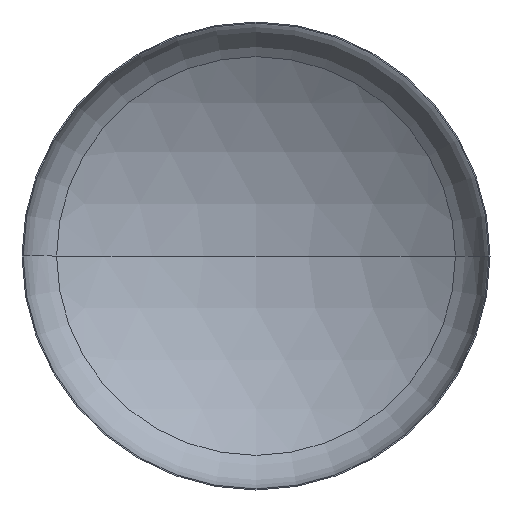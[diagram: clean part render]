
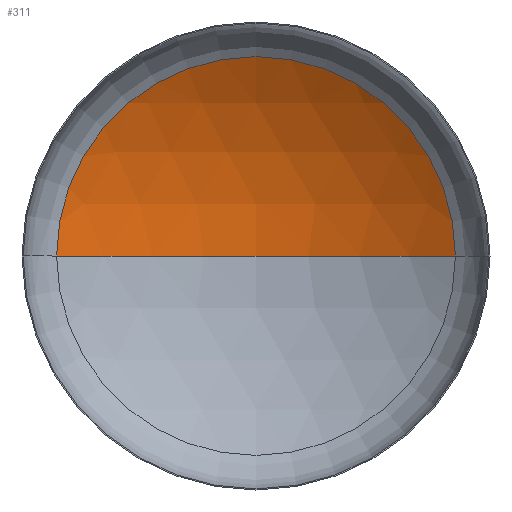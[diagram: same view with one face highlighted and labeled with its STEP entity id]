
A CAD part, front view. The second image highlights one B-rep face of the part: STEP entity #311.
In plain terms, the highlighted spherical face has radius 2400 mm.
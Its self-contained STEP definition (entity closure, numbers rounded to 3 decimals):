
#3 = DIRECTION ( 'NONE',  ( 0., 0., -1. ) ) ;
#4 = FACE_OUTER_BOUND ( 'NONE', #114, .T. ) ;
#8 = CARTESIAN_POINT ( 'NONE',  ( 0., -1617.106, 0. ) ) ;
#22 = AXIS2_PLACEMENT_3D ( 'NONE', #135, #396, #141 ) ;
#27 = VERTEX_POINT ( 'NONE', #254 ) ;
#40 = AXIS2_PLACEMENT_3D ( 'NONE', #397, #290, #374 ) ;
#41 = AXIS2_PLACEMENT_3D ( 'NONE', #8, #3, #200 ) ;
#44 = AXIS2_PLACEMENT_3D ( 'NONE', #143, #362, #193 ) ;
#85 = ORIENTED_EDGE ( 'NONE', *, *, #97, .T. ) ;
#97 = EDGE_CURVE ( 'NONE', #27, #118, #153, .T. ) ;
#99 = EDGE_CURVE ( 'NONE', #106, #27, #147, .T. ) ;
#100 = EDGE_CURVE ( 'NONE', #106, #118, #388, .T. ) ;
#106 = VERTEX_POINT ( 'NONE', #265 ) ;
#114 = EDGE_LOOP ( 'NONE', ( #130, #117, #85 ) ) ;
#117 = ORIENTED_EDGE ( 'NONE', *, *, #99, .T. ) ;
#118 = VERTEX_POINT ( 'NONE', #127 ) ;
#127 = CARTESIAN_POINT ( 'NONE',  ( -1277.938, 414.365, 0. ) ) ;
#130 = ORIENTED_EDGE ( 'NONE', *, *, #100, .F. ) ;
#135 = CARTESIAN_POINT ( 'NONE',  ( 0., -1617.106, 0. ) ) ;
#141 = DIRECTION ( 'NONE',  ( -1., 0., 0. ) ) ;
#143 = CARTESIAN_POINT ( 'NONE',  ( 0., 414.365, 0. ) ) ;
#147 = CIRCLE ( 'NONE', #41, 2400. ) ;
#153 = CIRCLE ( 'NONE', #44, 1277.938 ) ;
#193 = DIRECTION ( 'NONE',  ( 1., 0., 0. ) ) ;
#200 = DIRECTION ( 'NONE',  ( -1., 0., 0. ) ) ;
#254 = CARTESIAN_POINT ( 'NONE',  ( 1277.938, 414.365, 0. ) ) ;
#260 = SPHERICAL_SURFACE ( 'NONE', #22, 2400. ) ;
#265 = CARTESIAN_POINT ( 'NONE',  ( 0., 782.894, 0. ) ) ;
#290 = DIRECTION ( 'NONE',  ( 0., 0., 1. ) ) ;
#311 = ADVANCED_FACE ( 'NONE', ( #4 ), #260, .F. ) ;
#362 = DIRECTION ( 'NONE',  ( 0., -1., 0. ) ) ;
#374 = DIRECTION ( 'NONE',  ( 1., 0., 0. ) ) ;
#388 = CIRCLE ( 'NONE', #40, 2400. ) ;
#396 = DIRECTION ( 'NONE',  ( 0., 0., -1. ) ) ;
#397 = CARTESIAN_POINT ( 'NONE',  ( 0., -1617.106, 0. ) ) ;
